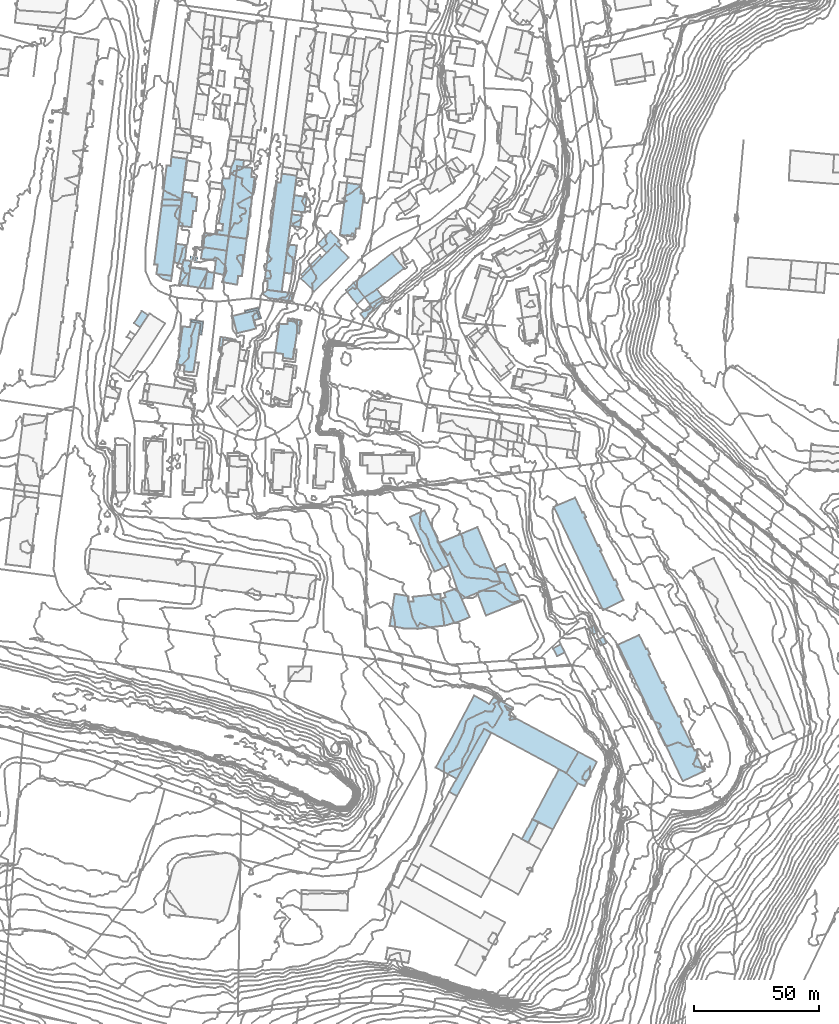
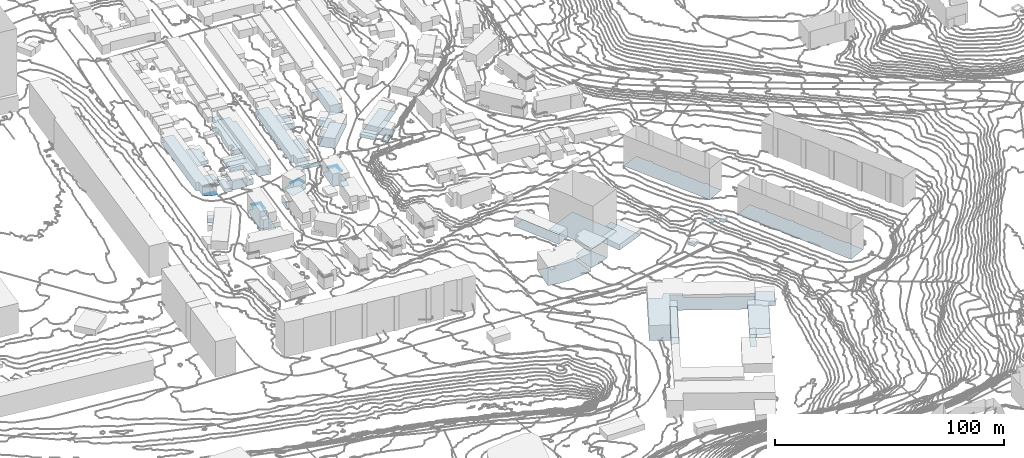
# Not in any storey, part 11 of 419: 49 footings.
"""IFC2X3 model written with IfcOpenShell, lengths in metres."""

import ifcopenshell
import ifcopenshell.guid

model = None  # the IFC model being written
_history = None  # IfcOwnerHistory: only IFC2X3 demands one
_inside = {}  # id of a spatial element -> (the spatial element, [elements in it])
_under = {}  # id of a project, library or spatial element -> (it, [spatial elements below it])
_declared = {}  # id of a project -> (the project, [libraries it declares])
_typed = {}  # id of a type object -> (the type object, [elements of that type])
_made_of = {}  # id of a material, layer set ... -> (it, [elements and type objects made of it])


def new_model(schema):
    """Start an empty IFC model of exactly this schema.

    Asked for "IFC4X3", IfcOpenShell would pick the latest addendum, in which some entities
    have other attributes; the version numbers below select the first issue.
    IFC2X3 requires an IfcOwnerHistory on every rooted entity: one is made here for all.
    """
    global model, _history
    if schema == "IFC4X3":
        model = ifcopenshell.file(schema_version=(4, 3, 0, 0))
    else:
        model = ifcopenshell.file(schema=schema)
    _inside.clear()
    _under.clear()
    _declared.clear()
    _typed.clear()
    _made_of.clear()
    _history = None
    if model.schema == "IFC2X3":
        org = make("IfcOrganization", Name="unknown")
        user = make(
            "IfcPersonAndOrganization",
            ThePerson=make("IfcPerson", FamilyName="unknown"),
            TheOrganization=org,
        )
        app = make(
            "IfcApplication",
            ApplicationDeveloper=org,
            Version="unknown",
            ApplicationFullName="unknown",
            ApplicationIdentifier="unknown",
        )
        _history = make(
            "IfcOwnerHistory",
            OwningUser=user,
            OwningApplication=app,
            ChangeAction="ADDED",
            CreationDate=0,
        )
    return model


def make(cls, **values):
    """One entity of the class cls with the attributes given. An attribute that is None is left unset."""
    return model.create_entity(
        cls, **{name: value for name, value in values.items() if value is not None}
    )


def rooted(cls, **values):
    """An entity with a GlobalId (a new one), such as an element, a storey or a relation."""
    return make(cls, GlobalId=ifcopenshell.guid.new(), OwnerHistory=_history, **values)


def si_unit(unit_type, name, prefix=None):
    """IfcSIUnit, for example si_unit("LENGTHUNIT", "METRE", prefix="MILLI")."""
    return make("IfcSIUnit", UnitType=unit_type, Prefix=prefix, Name=name)


def assignment(units):
    """IfcUnitAssignment: the units of a project."""
    return None if units is None else make("IfcUnitAssignment", Units=units)


def point(xyz):
    """IfcCartesianPoint."""
    return None if xyz is None else make("IfcCartesianPoint", Coordinates=xyz)


def direction(xyz):
    """IfcDirection."""
    return None if xyz is None else make("IfcDirection", DirectionRatios=xyz)


def frame(location, z_axis=None, x_axis=None):
    """IfcAxis2Placement3D, a coordinate frame: its origin and axes. An axis left out is left unset."""
    return make(
        "IfcAxis2Placement3D",
        Location=point(location),
        Axis=direction(z_axis),
        RefDirection=direction(x_axis),
    )


def origin_with_axes():
    """The frame at (0, 0, 0) with the z axis (0, 0, 1) and the x axis (1, 0, 0) written out."""
    return frame((0.0, 0.0, 0.0), z_axis=(0.0, 0.0, 1.0), x_axis=(1.0, 0.0, 0.0))


def place(relative_to, where):
    """IfcLocalPlacement: puts the frame where relative to a parent placement (None: the world)."""
    return make(
        "IfcLocalPlacement", PlacementRelTo=relative_to, RelativePlacement=where
    )


def context(
    kind, dimensions, precision=None, world=None, true_north=None, identifier=None
):
    """IfcGeometricRepresentationContext, for example the 3D "Model" context."""
    return make(
        "IfcGeometricRepresentationContext",
        ContextIdentifier=identifier,
        ContextType=kind,
        CoordinateSpaceDimension=dimensions,
        Precision=precision,
        WorldCoordinateSystem=world,
        TrueNorth=true_north,
    )


def subcontext(parent, identifier, kind, view, scale=None):
    """IfcGeometricRepresentationSubContext, for example "Body" below "Model"."""
    return make(
        "IfcGeometricRepresentationSubContext",
        ContextIdentifier=identifier,
        ContextType=kind,
        ParentContext=parent,
        TargetScale=scale,
        TargetView=view,
    )


def project(units=None, contexts=None):
    """IfcProject with its units and contexts."""
    return rooted(
        "IfcProject",
        Name="project",
        RepresentationContexts=contexts,
        UnitsInContext=assignment(units),
    )


def faces_of(points, faces, orient=None, outer=None):
    """IfcFace entities. A face is a list of loops; a loop is a list of indices into points, from 0.

    orient and outer hold one flag for each loop. By default every Orientation is true, the
    first loop of a face is its IfcFaceOuterBound and the others are IfcFaceBound.
    """
    made = []
    for i, loops in enumerate(faces):
        bounds = []
        for j, loop in enumerate(loops):
            is_outer = j == 0 if outer is None else outer[i][j]
            bounds.append(
                make(
                    "IfcFaceOuterBound" if is_outer else "IfcFaceBound",
                    Bound=make("IfcPolyLoop", Polygon=[points[k] for k in loop]),
                    Orientation=True if orient is None else orient[i][j],
                )
            )
        made.append(make("IfcFace", Bounds=bounds))
    return made


def faceted_brep(points, faces, orient=None, outer=None, voids=None):
    """IfcFacetedBrep: a solid bounded by flat faces; with voids (closed shells), ...WithVoids."""
    shared = [point(p) for p in points]
    hull = make("IfcClosedShell", CfsFaces=faces_of(shared, faces, orient, outer))
    if voids is None:
        return make("IfcFacetedBrep", Outer=hull)
    return make(
        "IfcFacetedBrepWithVoids",
        Outer=hull,
        Voids=[
            make(cls, CfsFaces=faces_of(shared, fs, o, b)) for cls, fs, o, b in voids
        ],
    )


def shape(context_of_items, identifier, shape_type, items):
    """IfcShapeRepresentation: the items that make up one representation, for example the "Body"."""
    return make(
        "IfcShapeRepresentation",
        ContextOfItems=context_of_items,
        RepresentationIdentifier=identifier,
        RepresentationType=shape_type,
        Items=items,
    )


def made_of(thing, what):
    """Note that an element or type object is made of a material, layer set ...; save() writes the relation."""
    if what is not None:
        _made_of.setdefault(what.id(), (what, []))[1].append(thing)
    return thing


def element(
    cls,
    number,
    at=None,
    inside=None,
    cuts=None,
    type_object=None,
    material=None,
    context=None,
    identifier="Body",
    shape_type=None,
    held_by="IfcProductDefinitionShape",
    body=None,
    shapes=None,
    **own,
):
    """One element of the class cls, such as IfcWall. Its Tag is "e" and its number.

    at: its placement. inside: the storey or other place that contains it. cuts: it is an
    opening in that element (IfcRelVoidsElement). A single representation is given by context,
    identifier, shape_type and body (its items); several are given by shapes. held_by: the class
    of the entity that holds the representations. save() writes the other relations.
    """
    e = rooted(cls, Tag="e%d" % number, ObjectPlacement=at, **own)
    if body is not None:
        shapes = [shape(context, identifier, shape_type, body)]
    if shapes is not None:
        e.Representation = make(held_by, Representations=shapes)
    if inside is not None:
        _inside.setdefault(inside.id(), (inside, []))[1].append(e)
    if cuts is not None:
        rooted(
            "IfcRelVoidsElement", RelatingBuildingElement=cuts, RelatedOpeningElement=e
        )
    if type_object is not None:
        _typed.setdefault(type_object.id(), (type_object, []))[1].append(e)
    return made_of(e, material)


def aggregate(whole, parts):
    """IfcRelAggregates: a whole, such as a stair, and the parts it consists of."""
    return rooted("IfcRelAggregates", RelatingObject=whole, RelatedObjects=parts)


def save(model, path):
    """Write the relations noted so far, then the file.

    IfcRelAggregates (storeys below a building ...), IfcRelContainedInSpatialStructure (elements
    in a storey), IfcRelDefinesByType, IfcRelAssociatesMaterial and IfcRelDeclares: one each for
    every whole, place, type object, material and project.
    """
    for whole, parts in _under.values():
        aggregate(whole, parts)
    for where, things in _inside.values():
        rooted(
            "IfcRelContainedInSpatialStructure",
            RelatedElements=things,
            RelatingStructure=where,
        )
    for kind, things in _typed.values():
        rooted("IfcRelDefinesByType", RelatedObjects=things, RelatingType=kind)
    for what, things in _made_of.values():
        rooted("IfcRelAssociatesMaterial", RelatedObjects=things, RelatingMaterial=what)
    for by, libraries in _declared.values():
        rooted("IfcRelDeclares", RelatingContext=by, RelatedDefinitions=libraries)
    model.write(path)


model = new_model("IFC2X3")

# Units and contexts
model_context = context("Model", 3, precision=1e-05, world=origin_with_axes())
body_context = subcontext(model_context, "Body", "Model", "MODEL_VIEW")
ifc_project = project(units=[si_unit("AREAUNIT", "SQUARE_METRE"), si_unit("LENGTHUNIT", "METRE")], contexts=[model_context])

# Footings
footing_1_placement = place(None, frame((580.0920204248, 606.6976909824, 41.2512004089), z_axis=(0.0, 0.0, 1.0), x_axis=(1.0, 0.0, 0.0)))
element("IfcFooting", 1, at=footing_1_placement, Name="Sol 0", PredefinedType="STRIP_FOOTING", context=body_context, shape_type="Brep", body=[
    faceted_brep([(5.8, 2.6000000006, 0.0), (15.7, -19.2999999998, 0.0), (9.9, -21.8999999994, 0.0), (0.0, 0.0, 0.0)], [[[0, 1, 2]], [[2, 3, 0]]]),
])
footing_2_placement = place(None, frame((532.2920204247, 723.0976909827, 38.54), z_axis=(0.0, 0.0, 1.0), x_axis=(1.0, 0.0, 0.0)))
element("IfcFooting", 2, at=footing_2_placement, Name="Sol 0", PredefinedType="STRIP_FOOTING", context=body_context, shape_type="Brep", body=[
    faceted_brep([(0.0, 0.0, 0.0), (0.5, 4.5, 0.0), (4.6000000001, 4.0, 0.0), (3.9, -0.6000000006, 0.0)], [[[0, 1, 2]], [[2, 3, 0]]]),
])
footing_3_placement = place(None, frame((533.0920204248, 729.0976909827, 38.442999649), z_axis=(0.0, 0.0, 1.0), x_axis=(1.0, 0.0, 0.0)))
element("IfcFooting", 3, at=footing_3_placement, Name="Sol 0", PredefinedType="STRIP_FOOTING", context=body_context, shape_type="Brep", body=[
    faceted_brep([(0.0, 0.0, 0.0), (0.7, 6.2000000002, 0.0), (5.8, 5.3999999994, 0.0), (4.8, -0.7000000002, 0.0)], [[[0, 1, 2]], [[2, 3, 0]]]),
])
footing_4_placement = place(None, frame((491.1920204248, 698.9976909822, 35.623999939), z_axis=(0.0, 0.0, 1.0), x_axis=(1.0, 0.0, 0.0)))
element("IfcFooting", 4, at=footing_4_placement, Name="Sol 0", PredefinedType="STRIP_FOOTING", context=body_context, shape_type="Brep", body=[
    faceted_brep([(7.8, 6.4000000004, 0.0), (6.7000000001, -1.0, 0.0), (0.0, 0.0, 0.0), (1.1, 7.3000000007, 0.0)], [[[0, 1, 2]], [[2, 3, 0]]]),
])
footing_5_placement = place(None, frame((628.9920204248, 485.6976909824, 39.5445994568), z_axis=(0.0, 0.0, 1.0), x_axis=(1.0, 0.0, 0.0)))
element("IfcFooting", 5, at=footing_5_placement, Name="Sol 0", PredefinedType="STRIP_FOOTING", context=body_context, shape_type="Brep", body=[
    faceted_brep([(0.0, 0.0, 0.0), (10.6, 20.0, 0.0), (13.6, 18.5, 0.0), (18.2, 14.4000000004, 0.0), (8.2, -4.0999999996, 0.0)], [[[0, 1, 2]], [[3, 4, 0]], [[0, 2, 3]]]),
])
footing_6_placement = place(None, frame((624.7920204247, 477.7976909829, 39.5445994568), z_axis=(0.0, 0.0, 1.0), x_axis=(1.0, 0.0, 0.0)))
element("IfcFooting", 6, at=footing_6_placement, Name="Sol 0", PredefinedType="STRIP_FOOTING", context=body_context, shape_type="Brep", body=[
    faceted_brep([(0.0, 0.0, 0.0), (4.2000000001, 7.8999999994, 0.0), (6.8, 6.7999999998, 0.0), (2.6000000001, -1.4000000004, 0.0)], [[[0, 1, 2]], [[2, 3, 0]]]),
])
footing_7_placement = place(None, frame((503.4920204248, 673.0976909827, 36.7057994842), z_axis=(0.0, 0.0, 1.0), x_axis=(1.0, 0.0, 0.0)))
element("IfcFooting", 7, at=footing_7_placement, Name="Sol 0", PredefinedType="STRIP_FOOTING", context=body_context, shape_type="Brep", body=[
    faceted_brep([(5.7, 4.7000000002, 0.0), (5.7, 3.8999999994, 0.0), (1.9, 4.3999999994, 0.0), (1.2999999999, 0.0999999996, 0.0), (0.0, 0.0, 0.0), (0.7999999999, 5.5, 0.0)], [[[0, 1, 2]], [[3, 4, 5]], [[5, 0, 2]], [[2, 3, 5]]]),
])
footing_8_placement = place(None, frame((514.0920204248, 689.0976909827, 37.3319997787), z_axis=(0.0, 0.0, 1.0), x_axis=(1.0, 0.0, 0.0)))
element("IfcFooting", 8, at=footing_8_placement, Name="Sol 0", PredefinedType="STRIP_FOOTING", context=body_context, shape_type="Brep", body=[
    faceted_brep([(4.7, 0.2000000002, 0.0), (0.2, -0.7999999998, 0.0), (0.0, 0.0, 0.0), (6.4, -2.9000000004, 0.0), (5.8, -3.2000000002, 0.0), (5.2, 1.2000000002, 0.0)], [[[0, 1, 2]], [[3, 4, 0]], [[0, 2, 5]], [[5, 3, 0]]]),
])
footing_9_placement = place(None, frame((595.6920204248, 496.6976909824, 39.4398013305), z_axis=(0.0, 0.0, 1.0), x_axis=(1.0, 0.0, 0.0)))
element("IfcFooting", 9, at=footing_9_placement, Name="Sol 0", PredefinedType="STRIP_FOOTING", context=body_context, shape_type="Brep", body=[
    faceted_brep([(3.2000000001, -1.7000000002, 0.0), (0.0, 0.0, 0.0), (3.0, 5.2000000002, 0.0), (14.0, 25.2000000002, 0.0), (16.8, 23.6000000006, 0.0)], [[[0, 1, 2]], [[3, 4, 0]], [[0, 2, 3]]]),
])
footing_10_placement = place(None, frame((536.3920204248, 703.4976909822, 41.2411993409), z_axis=(0.0, 0.0, 1.0), x_axis=(1.0, 0.0, 0.0)))
element("IfcFooting", 10, at=footing_10_placement, Name="Sol 0", PredefinedType="STRIP_FOOTING", context=body_context, shape_type="Brep", body=[
    faceted_brep([(4.7, 3.2000000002, 0.0), (0.7, -0.6999999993, 0.0), (0.0, 0.0, 0.0), (3.7999999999, 4.0, 0.0)], [[[0, 1, 2]], [[2, 3, 0]]]),
])
footing_11_placement = place(None, frame((496.4920204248, 709.8976909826, 36.4627999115), z_axis=(0.0, 0.0, 1.0), x_axis=(1.0, 0.0, 0.0)))
element("IfcFooting", 11, at=footing_11_placement, Name="Sol 0", PredefinedType="STRIP_FOOTING", context=body_context, shape_type="Brep", body=[
    faceted_brep([(10.2999999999, 3.2000000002, 0.0), (9.2, -6.5, 0.0), (5.4, -5.7000000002, 0.0), (0.0, 0.0, 0.0), (0.7, 4.5999999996, 0.0), (6.0, -0.7999999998, 0.0)], [[[0, 1, 2]], [[3, 4, 0]], [[0, 2, 5]], [[5, 3, 0]]]),
])
footing_12_placement = place(None, frame((502.8920204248, 719.6976909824, 37.1452000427), z_axis=(0.0, 0.0, 1.0), x_axis=(1.0, 0.0, 0.0)))
element("IfcFooting", 12, at=footing_12_placement, Name="Sol 0", PredefinedType="STRIP_FOOTING", context=body_context, shape_type="Brep", body=[
    faceted_brep([(7.1, 30.0, 0.0), (10.7999999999, 29.5, 0.0), (10.5, 26.7999999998, 0.0), (5.0, 22.2000000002, 0.0), (5.6, 26.5, 0.0), (1.8999999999, 20.2999999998, 0.0), (2.3999999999, 22.4000000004, 0.0), (0.7, 4.2999999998, 0.0), (2.3999999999, 13.9000000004, 0.0), (2.8999999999, 13.9000000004, 0.0), (0.0, 0.0, 0.0), (0.2999999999, 1.7000000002, 0.0), (2.2, 1.4000000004, 0.0), (8.1, 27.2000000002, 0.0), (3.2999999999, 17.7000000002, 0.0), (2.3999999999, 4.0, 0.0), (4.7999999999, -0.7000000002, 0.0)], [[[0, 1, 2]], [[3, 4, 0]], [[5, 6, 3]], [[7, 8, 9]], [[10, 11, 12]], [[0, 2, 13]], [[14, 5, 3]], [[15, 7, 9]], [[16, 10, 12]], [[0, 13, 16]], [[9, 14, 3]], [[16, 12, 15]], [[3, 0, 16]], [[15, 9, 3]], [[3, 16, 15]]]),
])
footing_13_placement = place(None, frame((554.4920204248, 697.3976909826, 42.8836994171), z_axis=(0.0, 0.0, 1.0), x_axis=(1.0, 0.0, 0.0)))
element("IfcFooting", 13, at=footing_13_placement, Name="Sol 0", PredefinedType="STRIP_FOOTING", context=body_context, shape_type="Brep", body=[
    faceted_brep([(3.0, 2.9000000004, 0.0), (7.5, -2.9000000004, 0.0), (4.4, -5.7000000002, 0.0), (0.0, 0.0, 0.0)], [[[0, 1, 2]], [[2, 3, 0]]]),
])
footing_14_placement = place(None, frame((469.6920204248, 684.0976909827, 34.6607994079), z_axis=(0.0, 0.0, 1.0), x_axis=(1.0, 0.0, 0.0)))
element("IfcFooting", 14, at=footing_14_placement, Name="Sol 0", PredefinedType="STRIP_FOOTING", context=body_context, shape_type="Brep", body=[
    faceted_brep([(3.1, 4.8999999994, 0.0), (5.7000000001, 3.2000000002, 0.0), (2.4, -1.7000000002, 0.0), (0.0, 0.0, 0.0)], [[[0, 1, 2]], [[2, 3, 0]]]),
])
footing_15_placement = place(None, frame((531.1920204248, 685.0976909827, 41.7803999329), z_axis=(0.0, 0.0, 1.0), x_axis=(1.0, 0.0, 0.0)))
element("IfcFooting", 15, at=footing_15_placement, Name="Sol 0", PredefinedType="STRIP_FOOTING", context=body_context, shape_type="Brep", body=[
    faceted_brep([(3.8, -0.5, 0.0), (0.0, 0.0, 0.0), (0.1, 0.8999999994, 0.0), (4.6, -5.1000000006, 0.0), (3.7000000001, -4.9000000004, 0.0), (5.1, 0.0999999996, 0.0)], [[[0, 1, 2]], [[3, 4, 0]], [[0, 2, 5]], [[5, 3, 0]]]),
])
footing_16_placement = place(None, frame((487.5920204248, 723.0976909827, 34.9640010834), z_axis=(0.0, 0.0, 1.0), x_axis=(1.0, 0.0, 0.0)))
element("IfcFooting", 16, at=footing_16_placement, Name="Sol 0", PredefinedType="STRIP_FOOTING", context=body_context, shape_type="Brep", body=[
    faceted_brep([(0.0, 0.0, 0.0), (1.8, 13.5999999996, 0.0), (5.5, 13.0, 0.0), (5.8, 5.7999999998, 0.0), (5.1, -0.6000000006, 0.0), (7.4, 11.5, 0.0), (6.9, 5.7999999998, 0.0), (5.3, 11.5999999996, 0.0)], [[[0, 1, 2]], [[3, 4, 0]], [[5, 6, 3]], [[0, 2, 7]], [[5, 3, 0]], [[0, 7, 5]]]),
])
footing_17_placement = place(None, frame((592.2920204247, 573.9976909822, 40.4176000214), z_axis=(0.0, 0.0, 1.0), x_axis=(1.0, 0.0, 0.0)))
element("IfcFooting", 17, at=footing_17_placement, Name="Sol 0", PredefinedType="STRIP_FOOTING", context=body_context, shape_type="Brep", body=[
    faceted_brep([(1.6000000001, -10.7999999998, 0.0), (0.0, 0.0, 0.0), (2.1000000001, 0.6000000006, 0.0), (11.7000000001, -7.3999999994, 0.0), (6.8, -9.3999999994, 0.0), (1.5, 2.3000000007, 0.0), (6.6000000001, 4.1000000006, 0.0)], [[[0, 1, 2]], [[3, 4, 0]], [[5, 6, 3]], [[3, 0, 2]], [[2, 5, 3]]]),
])
footing_18_placement = place(None, frame((561.9920204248, 694.4976909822, 43.3685993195), z_axis=(0.0, 0.0, 1.0), x_axis=(1.0, 0.0, 0.0)))
element("IfcFooting", 18, at=footing_18_placement, Name="Sol 0", PredefinedType="STRIP_FOOTING", context=body_context, shape_type="Brep", body=[
    faceted_brep([(3.7, -5.0999999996, 0.0), (0.0, 0.0, 0.0), (5.0, 3.3000000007, 0.0), (8.2, -1.1999999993, 0.0)], [[[0, 1, 2]], [[2, 3, 0]]]),
])
footing_19_placement = place(None, frame((543.2920204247, 716.0976909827, 41.3683003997), z_axis=(0.0, 0.0, 1.0), x_axis=(1.0, 0.0, 0.0)))
element("IfcFooting", 19, at=footing_19_placement, Name="Sol 0", PredefinedType="STRIP_FOOTING", context=body_context, shape_type="Brep", body=[
    faceted_brep([(9.4, -0.7999999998, 0.0), (8.6000000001, -1.9000000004, 0.0), (6.8, -0.4000000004, 0.0), (5.0, 4.8999999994, 0.0), (8.7000000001, 1.0999999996, 0.0), (8.0, 0.5999999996, 0.0), (3.4, -3.7999999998, 0.0), (0.0, 0.0, 0.0)], [[[0, 1, 2]], [[3, 4, 5]], [[6, 7, 3]], [[5, 0, 2]], [[2, 6, 3]], [[3, 5, 2]]]),
])
footing_20_placement = place(None, frame((571.9920204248, 563.0976909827, 38.7227992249), z_axis=(0.0, 0.0, 1.0), x_axis=(1.0, 0.0, 0.0)))
element("IfcFooting", 20, at=footing_20_placement, Name="Sol 0", PredefinedType="STRIP_FOOTING", context=body_context, shape_type="Brep", body=[
    faceted_brep([(9.2, 11.5999999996, 0.0), (20.2999999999, 12.7999999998, 0.0), (20.2999999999, 10.8999999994, 0.0), (2.0, 12.7999999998, 0.0), (7.6, 11.7999999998, 0.0), (7.2999999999, 9.7000000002, 0.0), (5.6, -1.0, 0.0), (0.0, 0.0, 0.0), (21.9, 0.0999999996, 0.0), (11.1, -1.2000000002, 0.0), (9.6, 9.7999999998, 0.0)], [[[0, 1, 2]], [[3, 4, 5]], [[6, 7, 3]], [[8, 9, 6]], [[0, 2, 8]], [[6, 3, 5]], [[10, 0, 8]], [[6, 5, 10]], [[10, 8, 6]]]),
])
footing_21_placement = place(None, frame((591.5920204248, 596.1976909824, 41.9024003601), z_axis=(0.0, 0.0, 1.0), x_axis=(1.0, 0.0, 0.0)))
element("IfcFooting", 21, at=footing_21_placement, Name="Sol 0", PredefinedType="STRIP_FOOTING", context=body_context, shape_type="Brep", body=[
    faceted_brep([(9.4, -22.3999999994, 0.0), (7.3, -18.0999999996, 0.0), (4.2, -8.7999999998, 0.0), (15.5, 6.4000000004, 0.0), (25.0, -15.8999999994, 0.0), (0.0, 0.0, 0.0)], [[[0, 1, 2]], [[3, 4, 0]], [[2, 5, 3]], [[3, 0, 2]]]),
])
footing_22_placement = place(None, frame((606.9920204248, 576.2976909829, 41.6300006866), z_axis=(0.0, 0.0, 1.0), x_axis=(1.0, 0.0, 0.0)))
element("IfcFooting", 22, at=footing_22_placement, Name="Sol 0", PredefinedType="STRIP_FOOTING", context=body_context, shape_type="Brep", body=[
    faceted_brep([(3.5, -9.0, 0.0), (0.0, 0.0, 0.0), (9.6, 4.0, 0.0), (7.2999999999, 9.7999999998, 0.0), (11.1, 11.5999999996, 0.0), (17.5, -3.4000000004, 0.0)], [[[0, 1, 2]], [[3, 4, 5]], [[5, 0, 2]], [[2, 3, 5]]]),
])
footing_23_placement = place(None, frame((557.4920204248, 700.2976909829, 42.8836994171), z_axis=(0.0, 0.0, 1.0), x_axis=(1.0, 0.0, 0.0)))
element("IfcFooting", 23, at=footing_23_placement, Name="Sol 0", PredefinedType="STRIP_FOOTING", context=body_context, shape_type="Brep", body=[
    faceted_brep([(15.5, 11.8999999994, 0.0), (20.2, 5.7999999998, 0.0), (9.5, -2.5, 0.0), (4.5, -5.8000000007, 0.0), (0.0, 0.0, 0.0)], [[[0, 1, 2]], [[3, 4, 0]], [[0, 2, 3]]]),
])
footing_24_placement = place(None, frame((642.5920204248, 504.1976909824, 39.7652008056), z_axis=(0.0, 0.0, 1.0), x_axis=(1.0, 0.0, 0.0)))
element("IfcFooting", 24, at=footing_24_placement, Name="Sol 0", PredefinedType="STRIP_FOOTING", context=body_context, shape_type="Brep", body=[
    faceted_brep([(4.6, -4.0999999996, 0.0), (0.0, 0.0, 0.0), (4.8, 8.5, 0.0), (12.2, 4.5, 0.0), (7.3, -5.2000000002, 0.0)], [[[0, 1, 2]], [[3, 4, 0]], [[0, 2, 3]]]),
])
footing_25_placement = place(None, frame((540.1920204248, 707.4976909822, 42.1155997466), z_axis=(0.0, 0.0, 1.0), x_axis=(1.0, 0.0, 0.0)))
element("IfcFooting", 25, at=footing_25_placement, Name="Sol 0", PredefinedType="STRIP_FOOTING", context=body_context, shape_type="Brep", body=[
    faceted_brep([(4.7000000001, 3.0, 0.0), (0.9, -0.7999999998, 0.0), (0.0, 0.0, 0.0), (3.9, 3.8000000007, 0.0)], [[[0, 1, 2]], [[2, 3, 0]]]),
])
footing_26_placement = place(None, frame((651.2920204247, 561.8976909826, 45.8280008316), z_axis=(0.0, 0.0, 1.0), x_axis=(1.0, 0.0, 0.0)))
element("IfcFooting", 26, at=footing_26_placement, Name="Sol 0", PredefinedType="STRIP_FOOTING", context=body_context, shape_type="Brep", body=[
    faceted_brep([(0.0, 0.0, 0.0), (2.3, 1.5999999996, 0.0), (4.0, -0.9000000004, 0.0), (2.1000000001, -2.5, 0.0)], [[[0, 1, 2]], [[2, 3, 0]]]),
])
footing_27_placement = place(None, frame((529.7920204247, 704.2976909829, 38.294998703), z_axis=(0.0, 0.0, 1.0), x_axis=(1.0, 0.0, 0.0)))
element("IfcFooting", 27, at=footing_27_placement, Name="Sol 0", PredefinedType="STRIP_FOOTING", context=body_context, shape_type="Brep", body=[
    faceted_brep([(3.3, -0.5, 0.0), (0.0, 0.0, 0.0), (1.4, 11.1999999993, 0.0), (5.1000000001, 10.8999999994, 0.0)], [[[0, 1, 2]], [[2, 3, 0]]]),
])
footing_28_placement = place(None, frame((520.9920204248, 695.7976909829, 38.1628002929), z_axis=(0.0, 0.0, 1.0), x_axis=(1.0, 0.0, 0.0)))
element("IfcFooting", 28, at=footing_28_placement, Name="Sol 0", PredefinedType="STRIP_FOOTING", context=body_context, shape_type="Brep", body=[
    faceted_brep([(0.0, 0.0, 0.0), (2.0, 1.5999999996, 0.0), (12.2, 0.2999999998, 0.0), (11.7, -2.9000000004, 0.0), (2.6, -1.7000000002, 0.0)], [[[0, 1, 2]], [[3, 4, 0]], [[0, 2, 3]]]),
])
footing_29_placement = place(None, frame((492.0920204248, 709.2976909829, 35.5023989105), z_axis=(0.0, 0.0, 1.0), x_axis=(1.0, 0.0, 0.0)))
element("IfcFooting", 29, at=footing_29_placement, Name="Sol 0", PredefinedType="STRIP_FOOTING", context=body_context, shape_type="Brep", body=[
    faceted_brep([(3.1, 1.5, 0.0), (2.8, -0.4000000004, 0.0), (0.0, 0.0, 0.0), (0.1, 1.7999999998, 0.0)], [[[0, 1, 2]], [[2, 3, 0]]]),
])
footing_30_placement = place(None, frame((487.6920204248, 699.5976909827, 35.014600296), z_axis=(0.0, 0.0, 1.0), x_axis=(1.0, 0.0, 0.0)))
element("IfcFooting", 30, at=footing_30_placement, Name="Sol 0", PredefinedType="STRIP_FOOTING", context=body_context, shape_type="Brep", body=[
    faceted_brep([(3.5, -0.6000000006, 0.0), (0.0, 0.0, 0.0), (1.5, 8.0999999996, 0.0), (1.8, 9.7999999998, 0.0), (5.0, 9.2999999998, 0.0)], [[[0, 1, 2]], [[3, 4, 0]], [[0, 2, 3]]]),
])
footing_31_placement = place(None, frame((560.2920204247, 687.9976909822, 44.2156001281), z_axis=(0.0, 0.0, 1.0), x_axis=(1.0, 0.0, 0.0)))
element("IfcFooting", 31, at=footing_31_placement, Name="Sol 0", PredefinedType="STRIP_FOOTING", context=body_context, shape_type="Brep", body=[
    faceted_brep([(0.0, 0.0, 0.0), (3.9, 3.3000000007, 0.0), (5.4, 1.4000000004, 0.0), (1.6000000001, -2.1999999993, 0.0)], [[[0, 1, 2]], [[2, 3, 0]]]),
])
footing_32_placement = place(None, frame((654.9920204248, 557.3976909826, 47.5459991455), z_axis=(0.0, 0.0, 1.0), x_axis=(1.0, 0.0, 0.0)))
element("IfcFooting", 32, at=footing_32_placement, Name="Sol 0", PredefinedType="STRIP_FOOTING", context=body_context, shape_type="Brep", body=[
    faceted_brep([(1.4, -2.0999999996, 0.0), (0.0, 0.0, 0.0), (2.6, 1.5999999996, 0.0), (3.6, -1.2000000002, 0.0)], [[[0, 1, 2]], [[2, 3, 0]]]),
])
footing_33_placement = place(None, frame((536.3920204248, 701.9976909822, 41.3607991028), z_axis=(0.0, 0.0, 1.0), x_axis=(1.0, 0.0, 0.0)))
element("IfcFooting", 33, at=footing_33_placement, Name="Sol 0", PredefinedType="STRIP_FOOTING", context=body_context, shape_type="Brep", body=[
    faceted_brep([(13.7, 13.7000000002, 0.0), (15.5, 12.2000000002, 0.0), (19.2, 8.4000000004, 0.0), (5.3999999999, -5.1999999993, 0.0), (0.0, 0.0, 0.0)], [[[0, 1, 2]], [[3, 4, 0]], [[0, 2, 3]]]),
])
footing_34_placement = place(None, frame((497.1920204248, 714.4976909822, 36.4867996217), z_axis=(0.0, 0.0, 1.0), x_axis=(1.0, 0.0, 0.0)))
element("IfcFooting", 34, at=footing_34_placement, Name="Sol 0", PredefinedType="STRIP_FOOTING", context=body_context, shape_type="Brep", body=[
    faceted_brep([(0.8, 5.7000000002, 0.0), (10.5, 4.5, 0.0), (9.6, -1.3999999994, 0.0), (0.0, 0.0, 0.0)], [[[0, 1, 2]], [[2, 3, 0]]]),
])
footing_35_placement = place(None, frame((637.2920204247, 554.0976909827, 43.4216000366), z_axis=(0.0, 0.0, 1.0), x_axis=(1.0, 0.0, 0.0)))
element("IfcFooting", 35, at=footing_35_placement, Name="Sol 0", PredefinedType="STRIP_FOOTING", context=body_context, shape_type="Brep", body=[
    faceted_brep([(0.0, 0.0, 0.0), (3.1000000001, 1.7000000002, 0.0), (4.7000000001, -1.5, 0.0), (1.7000000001, -3.1000000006, 0.0)], [[[0, 1, 2]], [[2, 3, 0]]]),
])
footing_36_placement = place(None, frame((492.3920204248, 685.5976909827, 35.6831993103), z_axis=(0.0, 0.0, 1.0), x_axis=(1.0, 0.0, 0.0)))
element("IfcFooting", 36, at=footing_36_placement, Name="Sol 0", PredefinedType="STRIP_FOOTING", context=body_context, shape_type="Brep", body=[
    faceted_brep([(4.2999999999, -6.1000000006, 0.0), (3.5, -5.7000000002, 0.0), (4.0, -1.5, 0.0), (0.1, -0.9000000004, 0.0), (0.0, 0.0, 0.0), (5.0, -0.9000000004, 0.0)], [[[0, 1, 2]], [[3, 4, 5]], [[5, 0, 2]], [[2, 3, 5]]]),
])
footing_37_placement = place(None, frame((485.7920204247, 708.3976909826, 34.6597991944), z_axis=(0.0, 0.0, 1.0), x_axis=(1.0, 0.0, 0.0)))
element("IfcFooting", 37, at=footing_37_placement, Name="Sol 0", PredefinedType="STRIP_FOOTING", context=body_context, shape_type="Brep", body=[
    faceted_brep([(3.4, -0.7000000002, 0.0), (0.0, 0.0, 0.0), (0.9, 7.4000000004, 0.0), (5.0, 6.9000000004, 0.0), (4.3, 0.7000000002, 0.0), (3.7000000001, 1.0, 0.0)], [[[0, 1, 2]], [[3, 4, 5]], [[5, 0, 2]], [[2, 3, 5]]]),
])
footing_38_placement = place(None, frame((590.3920204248, 506.3976909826, 37.3095994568), z_axis=(0.0, 0.0, 1.0), x_axis=(1.0, 0.0, 0.0)))
element("IfcFooting", 38, at=footing_38_placement, Name="Sol 0", PredefinedType="STRIP_FOOTING", context=body_context, shape_type="Brep", body=[
    faceted_brep([(19.2999999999, 15.5, 0.0), (8.2999999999, -4.5, 0.0), (0.0, 0.0, 0.0), (57.0, 6.2999999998, 0.0), (52.2, -2.2000000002, 0.0), (23.1, 28.0999999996, 0.0), (30.8999999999, 24.0, 0.0), (29.3999999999, 21.0999999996, 0.0), (15.2999999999, 28.7999999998, 0.0), (21.3999999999, 25.4000000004, 0.0)], [[[0, 1, 2]], [[3, 4, 0]], [[5, 6, 7]], [[2, 8, 9]], [[7, 3, 0]], [[9, 5, 7]], [[0, 2, 9]], [[9, 7, 0]]]),
])
footing_39_placement = place(None, frame((487.0920204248, 667.5976909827, 35.2327999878), z_axis=(0.0, 0.0, 1.0), x_axis=(1.0, 0.0, 0.0)))
element("IfcFooting", 39, at=footing_39_placement, Name="Sol 0", PredefinedType="STRIP_FOOTING", context=body_context, shape_type="Brep", body=[
    faceted_brep([(6.4, -3.1000000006, 0.0), (2.6, -2.7999999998, 0.0), (2.9, -0.4000000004, 0.0), (5.4, 17.0999999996, 0.0), (9.3, 16.5, 0.0), (0.0, 0.0, 0.0), (2.1, 15.2000000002, 0.0), (5.0, 14.8999999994, 0.0)], [[[0, 1, 2]], [[3, 4, 0]], [[5, 6, 7]], [[3, 0, 2]], [[2, 5, 7]], [[7, 3, 2]]]),
])
footing_40_placement = place(None, frame((504.9920204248, 700.4976909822, 36.9749997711), z_axis=(0.0, 0.0, 1.0), x_axis=(1.0, 0.0, 0.0)))
element("IfcFooting", 40, at=footing_40_placement, Name="Sol 0", PredefinedType="STRIP_FOOTING", context=body_context, shape_type="Brep", body=[
    faceted_brep([(0.7, 2.9000000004, 0.0), (6.0, 46.4000000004, 0.0), (8.4, 46.0, 0.0), (6.0, -1.0, 0.0), (0.0, 0.0, 0.0), (13.0, 42.0, 0.0), (7.9, 2.5, 0.0), (6.4, 2.5, 0.0), (12.0, 45.7000000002, 0.0), (11.7, 42.1000000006, 0.0)], [[[0, 1, 2]], [[3, 4, 0]], [[5, 6, 7]], [[2, 8, 9]], [[3, 0, 2]], [[9, 5, 7]], [[7, 3, 2]], [[2, 9, 7]]]),
])
footing_41_placement = place(None, frame((663.2920204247, 555.5976909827, 49.3428007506), z_axis=(0.0, 0.0, 1.0), x_axis=(1.0, 0.0, 0.0)))
element("IfcFooting", 41, at=footing_41_placement, Name="Sol 0", PredefinedType="STRIP_FOOTING", context=body_context, shape_type="Brep", body=[
    faceted_brep([(34.5, -50.5, 0.0), (25.9, -54.6000000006, 0.0), (0.0, 0.0, 0.0), (31.2000000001, -42.1000000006, 0.0), (32.2000000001, -44.2999999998, 0.0), (31.6000000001, -44.5, 0.0), (24.7000000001, -28.5, 0.0), (25.7000000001, -30.7000000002, 0.0), (25.1000000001, -30.9000000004, 0.0), (18.2000000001, -15.0, 0.0), (19.2000000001, -17.1000000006, 0.0), (18.6000000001, -17.4000000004, 0.0), (11.8, -1.6000000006, 0.0), (12.8, -3.7000000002, 0.0), (12.2000000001, -4.0, 0.0), (8.5, 3.8999999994, 0.0), (11.2000000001, -1.7999999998, 0.0), (30.6000000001, -42.4000000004, 0.0), (24.1000000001, -28.7999999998, 0.0), (17.6000000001, -15.2999999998, 0.0)], [[[0, 1, 2]], [[3, 4, 5]], [[6, 7, 8]], [[9, 10, 11]], [[12, 13, 14]], [[2, 15, 16]], [[5, 0, 2]], [[17, 3, 5]], [[18, 6, 8]], [[19, 9, 11]], [[16, 12, 14]], [[17, 5, 2]], [[11, 18, 8]], [[14, 19, 11]], [[2, 16, 14]], [[8, 17, 2]], [[2, 14, 11]], [[11, 8, 2]]]),
])
footing_42_placement = place(None, frame((637.5920204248, 610.6976909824, 50.8569999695), z_axis=(0.0, 0.0, 1.0), x_axis=(1.0, 0.0, 0.0)))
element("IfcFooting", 42, at=footing_42_placement, Name="Sol 0", PredefinedType="STRIP_FOOTING", context=body_context, shape_type="Brep", body=[
    faceted_brep([(25.1, -31.3999999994, 0.0), (27.9, -37.2999999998, 0.0), (19.7, -41.2999999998, 0.0), (24.7, -29.0, 0.0), (25.6, -31.0999999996, 0.0), (18.2, -15.2999999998, 0.0), (19.2, -17.3999999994, 0.0), (18.6, -17.5999999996, 0.0), (11.9, -2.0, 0.0), (12.9, -4.0999999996, 0.0), (12.4, -4.2999999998, 0.0), (0.0, 0.0, 0.0), (8.6, 3.7000000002, 0.0), (11.4, -2.2999999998, 0.0), (24.1, -29.2999999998, 0.0), (17.7, -15.5999999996, 0.0)], [[[0, 1, 2]], [[3, 4, 0]], [[5, 6, 7]], [[8, 9, 10]], [[11, 12, 13]], [[0, 2, 11]], [[14, 3, 0]], [[15, 5, 7]], [[13, 8, 10]], [[14, 0, 11]], [[10, 15, 7]], [[11, 13, 10]], [[7, 14, 11]], [[11, 10, 7]]]),
])
footing_43_placement = place(None, frame((478.6920204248, 703.6976909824, 34.6267008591), z_axis=(0.0, 0.0, 1.0), x_axis=(1.0, 0.0, 0.0)))
element("IfcFooting", 43, at=footing_43_placement, Name="Sol 0", PredefinedType="STRIP_FOOTING", context=body_context, shape_type="Brep", body=[
    faceted_brep([(2.7000000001, -2.0, 0.0), (0.0, 0.0, 0.0), (6.2000000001, -0.5999999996, 0.0), (5.8, -2.7999999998, 0.0)], [[[0, 1, 2]], [[2, 3, 0]]]),
])
footing_44_placement = place(None, frame((521.9920204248, 700.9976909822, 38.0867002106), z_axis=(0.0, 0.0, 1.0), x_axis=(1.0, 0.0, 0.0)))
element("IfcFooting", 44, at=footing_44_placement, Name="Sol 0", PredefinedType="STRIP_FOOTING", context=body_context, shape_type="Brep", body=[
    faceted_brep([(6.7999999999, -4.3999999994, 0.0), (1.0, -3.5999999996, 0.0), (1.2, -0.0999999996, 0.0), (6.7999999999, 42.9000000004, 0.0), (12.7999999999, 42.1000000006, 0.0), (0.0, 0.0, 0.0), (4.9, 39.5, 0.0), (6.4, 39.3000000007, 0.0)], [[[0, 1, 2]], [[3, 4, 0]], [[5, 6, 7]], [[7, 3, 0]], [[2, 5, 7]], [[7, 0, 2]]]),
])
footing_45_placement = place(None, frame((477.7920204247, 707.5976909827, 34.5523995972), z_axis=(0.0, 0.0, 1.0), x_axis=(1.0, 0.0, 0.0)))
element("IfcFooting", 45, at=footing_45_placement, Name="Sol 0", PredefinedType="STRIP_FOOTING", context=body_context, shape_type="Brep", body=[
    faceted_brep([(7.1000000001, -4.5, 0.0), (0.9, -3.9000000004, 0.0), (1.4, -0.1000000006, 0.0), (6.9, 43.0, 0.0), (13.0, 42.2000000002, 0.0), (0.0, 0.0, 0.0), (5.0, 39.5999999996, 0.0), (6.6000000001, 39.3999999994, 0.0)], [[[0, 1, 2]], [[3, 4, 0]], [[5, 6, 7]], [[7, 3, 0]], [[2, 5, 7]], [[7, 0, 2]]]),
])
footing_46_placement = place(None, frame((497.8920204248, 697.9976909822, 36.0491007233), z_axis=(0.0, 0.0, 1.0), x_axis=(1.0, 0.0, 0.0)))
element("IfcFooting", 46, at=footing_46_placement, Name="Sol 0", PredefinedType="STRIP_FOOTING", context=body_context, shape_type="Brep", body=[
    faceted_brep([(1.0, 6.7000000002, 0.0), (4.0, 6.2000000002, 0.0), (3.2, -0.0999999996, 0.0), (0.0, 0.0, 0.0)], [[[0, 1, 2]], [[2, 3, 0]]]),
])
footing_47_placement = place(None, frame((509.1920204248, 686.9976909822, 37.0455993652), z_axis=(0.0, 0.0, 1.0), x_axis=(1.0, 0.0, 0.0)))
element("IfcFooting", 47, at=footing_47_placement, Name="Sol 0", PredefinedType="STRIP_FOOTING", context=body_context, shape_type="Brep", body=[
    faceted_brep([(0.0, 0.0, 0.0), (5.1, 1.3000000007, 0.0), (9.6, 2.3000000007, 0.0), (9.4, -5.0, 0.0), (1.8, -6.8999999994, 0.0), (10.7000000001, -1.0999999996, 0.0), (8.7000000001, -1.6999999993, 0.0)], [[[0, 1, 2]], [[3, 4, 0]], [[2, 5, 6]], [[6, 3, 0]], [[0, 2, 6]]]),
])
footing_48_placement = place(None, frame((526.1920204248, 672.1976909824, 41.2869987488), z_axis=(0.0, 0.0, 1.0), x_axis=(1.0, 0.0, 0.0)))
element("IfcFooting", 48, at=footing_48_placement, Name="Sol 0", PredefinedType="STRIP_FOOTING", context=body_context, shape_type="Brep", body=[
    faceted_brep([(0.0, 0.0, 0.0), (1.7000000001, 11.7000000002, 0.0), (5.0, 11.5, 0.0), (7.1, -2.5, 0.0), (3.1, -2.0, 0.0), (3.1, -0.3999999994, 0.0), (8.8, 12.4000000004, 0.0), (8.7000000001, 8.0, 0.0), (5.0, 12.9000000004, 0.0)], [[[0, 1, 2]], [[3, 4, 5]], [[6, 7, 3]], [[2, 8, 6]], [[5, 0, 2]], [[6, 3, 5]], [[5, 2, 6]]]),
])
footing_49_placement = place(None, frame((552.0920204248, 719.3976909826, 41.7934008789), z_axis=(0.0, 0.0, 1.0), x_axis=(1.0, 0.0, 0.0)))
element("IfcFooting", 49, at=footing_49_placement, Name="Sol 0", PredefinedType="STRIP_FOOTING", context=body_context, shape_type="Brep", body=[
    faceted_brep([(0.0, 0.0, 0.0), (2.8, 20.7999999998, 0.0), (8.6, 20.0, 0.0), (6.4, 2.5999999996, 0.0), (6.0, -0.7999999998, 0.0), (9.6, 16.4000000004, 0.0), (7.8, 2.5999999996, 0.0), (8.2, 16.5, 0.0)], [[[0, 1, 2]], [[3, 4, 0]], [[5, 6, 3]], [[0, 2, 7]], [[5, 3, 0]], [[0, 7, 5]]]),
])

save(model, "model.ifc")
